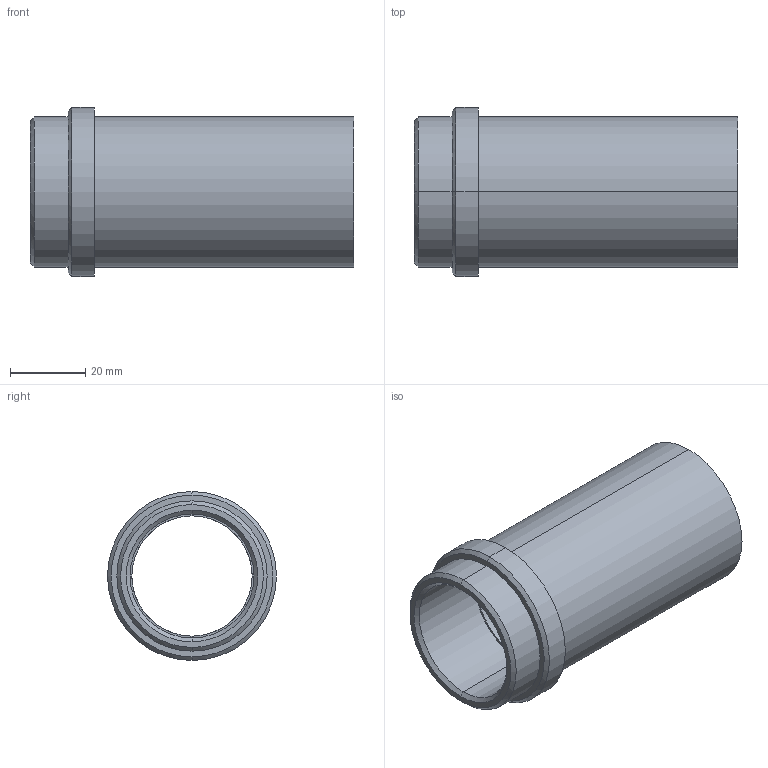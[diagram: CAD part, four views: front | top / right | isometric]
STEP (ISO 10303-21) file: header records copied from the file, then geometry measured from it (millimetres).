
FILE_DESCRIPTION(('CATIA V5 STEP Exchange'),'2;1');
FILE_NAME('C:\Users\Utente\Desktop\IO LAVORO\3D X SITO CF\X SITO\PLASTICA\358\358-32x86.stp','2021-04-09T13:14:50+00:00',('none'),('none'),'CATIA Version 5 Release 20 GA (IN-10)','CATIA V5 STEP AP203','none');
FILE_SCHEMA(('CONFIG_CONTROL_DESIGN'));
Length unit declared in the file: millimetre
Products named in the file (1): 358-32X86
Bounding box: 86 x 45 x 45 mm (x, y, z)
Volume: 39845.9 mm3; surface area: 20901.2 mm2
Topology: 1 solids, 1 shells, 23 faces, 74 edges, 56 vertices
Faces by surface type: cylinder 10, cone 6, plane 5, torus 2
Entity records: 1066 total; most frequent: CARTESIAN_POINT 378, ORIENTED_EDGE 148, DIRECTION 104, EDGE_CURVE 74, AXIS2_PLACEMENT_3D 66, VERTEX_POINT 56, CIRCLE 42, EDGE_LOOP 28
